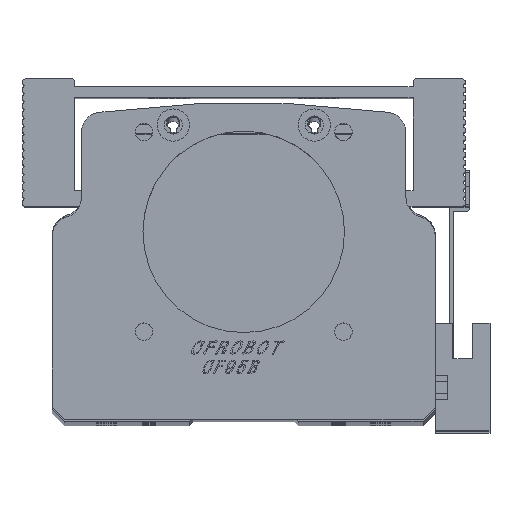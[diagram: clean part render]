
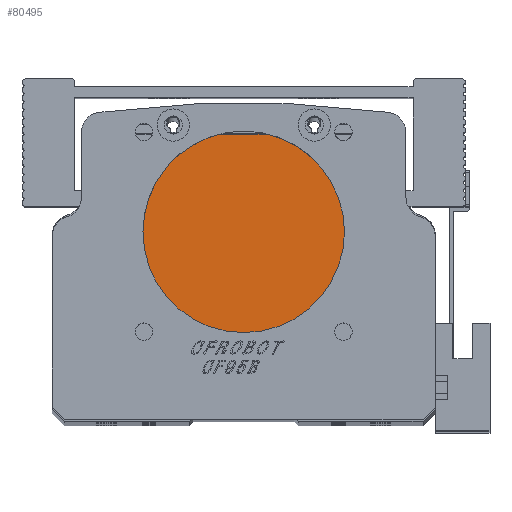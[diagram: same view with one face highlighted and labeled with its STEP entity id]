
A CAD part, top view. The second image highlights one B-rep face of the part: STEP entity #80495.
In plain terms, the highlighted planar face has unit normal (0, 0, 1).
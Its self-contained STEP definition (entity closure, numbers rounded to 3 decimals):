
#797 = CARTESIAN_POINT ( 'NONE',  ( -25., 7.73, 0. ) ) ;
#1172 = CARTESIAN_POINT ( 'NONE',  ( 0., 7.73, 0. ) ) ;
#4144 = EDGE_CURVE ( 'NONE', #39255, #22575, #60594, .T. ) ;
#4150 = AXIS2_PLACEMENT_3D ( 'NONE', #39824, #51593, #133544 ) ;
#5504 = DIRECTION ( 'NONE',  ( 1., 0., 0. ) ) ;
#5600 = ORIENTED_EDGE ( 'NONE', *, *, #127531, .T. ) ;
#8260 = DIRECTION ( 'NONE',  ( 1., 0., 0. ) ) ;
#12955 = DIRECTION ( 'NONE',  ( 1., 0., 0. ) ) ;
#17742 = CARTESIAN_POINT ( 'NONE',  ( 25., 7.73, 0. ) ) ;
#19724 = DIRECTION ( 'NONE',  ( 0., 0., 1. ) ) ;
#22575 = VERTEX_POINT ( 'NONE', #150626 ) ;
#37923 = VERTEX_POINT ( 'NONE', #144059 ) ;
#39255 = VERTEX_POINT ( 'NONE', #17742 ) ;
#39824 = CARTESIAN_POINT ( 'NONE',  ( 0., 0., 0. ) ) ;
#43203 = LINE ( 'NONE', #148562, #59674 ) ;
#45356 = VERTEX_POINT ( 'NONE', #797 ) ;
#51593 = DIRECTION ( 'NONE',  ( 0., 0., 1. ) ) ;
#56632 = EDGE_CURVE ( 'NONE', #37923, #22575, #43203, .T. ) ;
#59674 = VECTOR ( 'NONE', #8260, 1000. ) ;
#60594 = CIRCLE ( 'NONE', #143737, 25. ) ;
#61962 = EDGE_LOOP ( 'NONE', ( #149227, #5600, #151137, #138402 ) ) ;
#75687 = DIRECTION ( 'NONE',  ( 0., 0., 1. ) ) ;
#75886 = EDGE_CURVE ( 'NONE', #45356, #39255, #112861, .T. ) ;
#80192 = AXIS2_PLACEMENT_3D ( 'NONE', #1172, #83074, #12955 ) ;
#80495 = ADVANCED_FACE ( 'NONE', ( #139422 ), #109065, .T. ) ;
#83074 = DIRECTION ( 'NONE',  ( 0., 0., 1. ) ) ;
#89921 = CARTESIAN_POINT ( 'NONE',  ( 0., 7.73, 0. ) ) ;
#101702 = DIRECTION ( 'NONE',  ( 1., 0., 0. ) ) ;
#102049 = CIRCLE ( 'NONE', #120811, 25. ) ;
#109065 = PLANE ( 'NONE',  #4150 ) ;
#112861 = CIRCLE ( 'NONE', #80192, 25. ) ;
#120811 = AXIS2_PLACEMENT_3D ( 'NONE', #89921, #19724, #101702 ) ;
#127531 = EDGE_CURVE ( 'NONE', #37923, #45356, #102049, .T. ) ;
#133544 = DIRECTION ( 'NONE',  ( 1., 0., 0. ) ) ;
#138402 = ORIENTED_EDGE ( 'NONE', *, *, #4144, .T. ) ;
#139422 = FACE_OUTER_BOUND ( 'NONE', #61962, .T. ) ;
#143737 = AXIS2_PLACEMENT_3D ( 'NONE', #145759, #75687, #5504 ) ;
#144059 = CARTESIAN_POINT ( 'NONE',  ( -6.078, 31.98, 0. ) ) ;
#145759 = CARTESIAN_POINT ( 'NONE',  ( 0., 7.73, 0. ) ) ;
#148562 = CARTESIAN_POINT ( 'NONE',  ( 27., 31.98, 0. ) ) ;
#149227 = ORIENTED_EDGE ( 'NONE', *, *, #56632, .F. ) ;
#150626 = CARTESIAN_POINT ( 'NONE',  ( 6.078, 31.98, 0. ) ) ;
#151137 = ORIENTED_EDGE ( 'NONE', *, *, #75886, .T. ) ;
